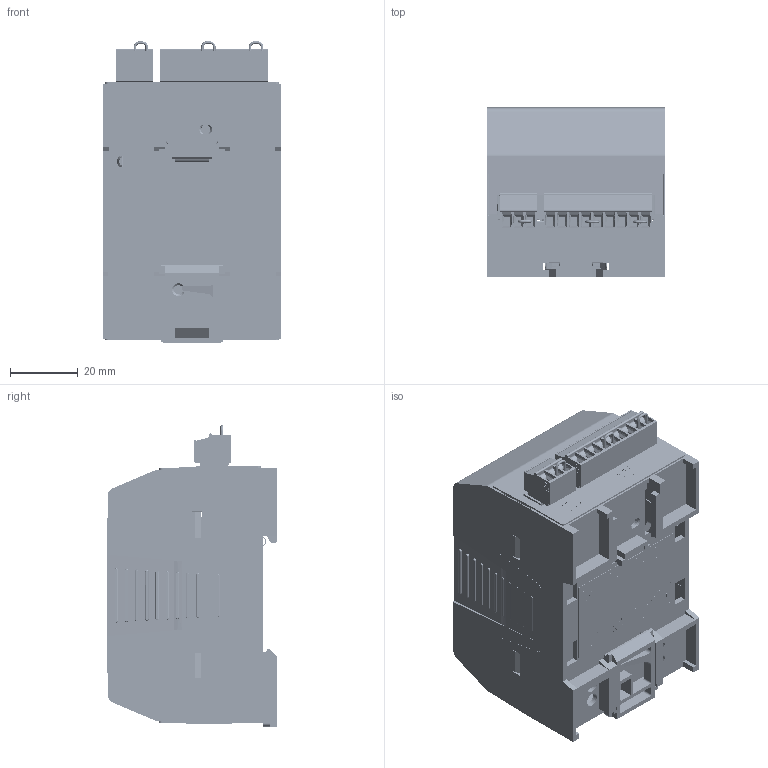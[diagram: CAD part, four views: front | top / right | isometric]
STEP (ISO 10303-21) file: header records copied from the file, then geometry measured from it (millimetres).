
FILE_DESCRIPTION (( 'STEP AP214' ), '1' );
FILE_NAME ('HI6200-WP-10-PFN-000.STEP', '2019-06-27T15:05:31', ( '' ), ( '' ), 'SwSTEP 2.0', 'SolidWorks 2017', '' );
FILE_SCHEMA (( 'AUTOMOTIVE_DESIGN' ));
Length unit declared in the file: millimetre
Products named in the file (46): 2140-0152-09-0; _C-106-22-112-BE_Pin; 2140-0151-03-0; _CLP_ap; _CLP-112-2-G-D-BE-A_terminal; 0517-0136-01-0_REV A; Molex_5019512410; Tyco_c-1-6605752-1-d-3d; DEFAULT; 2140-0150-03-0; 0535-0585-XX-0_PFN; 0534-0584-01-0_Revision X1; DEFAULT_3; Phoenix_EH_52.5_F-B_ABS_H.Select_1; 2158-0048-02-0; ProfiNet Chip; 0530-0873-01-0_REV X1; 2158-0028-03-0; 0535-0584-XX-0_PFN; 2158-0047-0; 2140-0153-09-0; 0505-0334-01-0_REV A; HI6200-WP-10-PFN-000; Phoenix_MEBS-Snap-lock DIN Rail Clip; 2450-0039-0_24P Tail; 2450-0039-0; 2158-0046-08-0; 0534-0585-01-0_Revision X1; 2815-0180-0; 0577-0149-01-0_REV A; 2118-0428-24-0; 6026-0003-0_3.5mm Pitch x 5mm Long; _FTS-112-02-F-D_pins2; 0579-0031-01-0_REV B; 0517-0131-01-0_REV A; 0517-0132-01-0_REV A; _FTS-112-02-F-D_pins1; 5610-0023-0_750370040; 1428-0028-0; DEFAULT_3-1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
Assembly tree (51 placements, depth 5):
  HI6200-WP-10-PFN-000
    1428-0028-0
      Phoenix_EH_52.5_F-B_ABS_H.Select_1
      Phoenix_MEBS-Snap-lock DIN Rail Clip
    0505-0334-01-0_REV A
    0577-0149-01-0_REV A
    2450-0039-0
    2450-0039-0_24P Tail
    0579-0031-01-0_REV B
    0517-0131-01-0_REV A
    0517-0132-01-0_REV A
    2140-0151-03-0
    6026-0003-0_3.5mm Pitch x 5mm Long  x3
    2140-0153-09-0
    0517-0136-01-0_REV A
    0530-0873-01-0_REV X1
    0535-0584-XX-0_PFN
      0534-0584-01-0_Revision X1
      Tyco_c-1-6605752-1-d-3d
      Molex_5019512410
      2140-0150-03-0
      2140-0152-09-0
      5610-0023-0_750370040
        DEFAULT
          DEFAULT
          DEFAULT-1  x2
      2158-0045-24-0
        _CLP-112-2-G-D-BE-A_terminal
        _C-106-22-112-BE_Pin  x2
        _CLP_ap
        _CLP_ap
    2815-0180-0  x3
    0535-0585-XX-0_PFN
      0534-0585-01-0_Revision X1
      ProfiNet Chip
      2118-0428-24-0
        _FTS-112-02-F-D_body
        _FTS-112-02-F-D_pins1
        _FTS-112-02-F-D_pins2
      2158-0046-08-0
      2158-0028-03-0
      2158-0047-0
      2158-0048-02-0
        DEFAULT_3
          DEFAULT_3
          DEFAULT_3-1
Bounding box: 52.6 x 50.23 x 88.73 mm (x, y, z)
Volume: 62880.2 mm3; surface area: 107746.2 mm2
Topology: 119 solids, 120 shells, 11266 faces, 30349 edges, 19871 vertices
Faces by surface type: plane 7240, bspline 2140, cylinder 1774, cone 70, torus 32, sphere 10
Entity records: 472462 total; most frequent: CARTESIAN_POINT 127516, ORIENTED_EDGE 59476, DIRECTION 45472, EDGE_CURVE 29739, LINE 21414, VECTOR 21414, VERTEX_POINT 19485, EDGE_LOOP 12129
